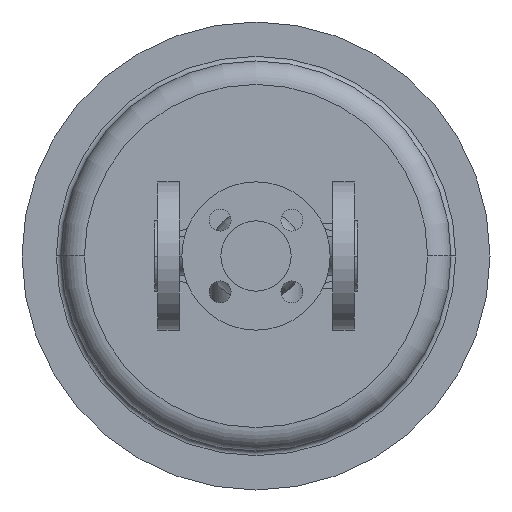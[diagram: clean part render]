
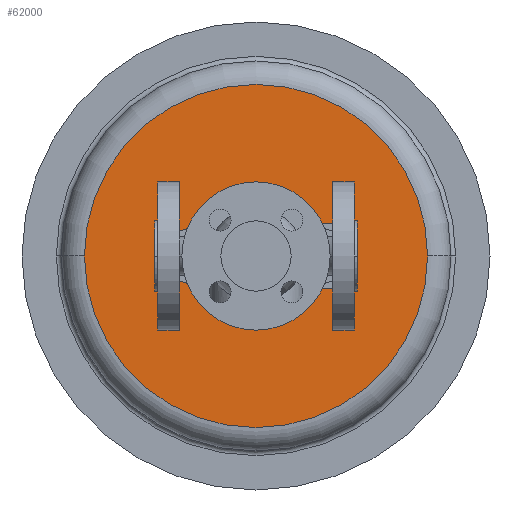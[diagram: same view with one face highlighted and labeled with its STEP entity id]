
A CAD part, front view. The second image highlights one B-rep face of the part: STEP entity #62000.
In plain terms, the highlighted planar face has unit normal (0, -1, 0).
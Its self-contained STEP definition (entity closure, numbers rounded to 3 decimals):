
#51820=CARTESIAN_POINT('',(175.,541.,0.));
#51830=VERTEX_POINT('',#51820);
#51930=CARTESIAN_POINT('',(-45.,541.,0.));
#51940=VERTEX_POINT('',#51930);
#51970=CARTESIAN_POINT('',(65.,541.,0.));
#51980=DIRECTION('',(0.,1.,0.));
#51990=DIRECTION('',(1.,0.,0.));
#52000=AXIS2_PLACEMENT_3D('',#51970,#51980,#51990);
#52010=CIRCLE('',#52000,110.);
#52020=CARTESIAN_POINT('',(65.,541.,-110.));
#52030=VERTEX_POINT('',#52020);
#52040=EDGE_CURVE('',#52030,#51940,#52010,.T.);
#52060=EDGE_CURVE('',#51830,#52030,#52010,.T.);
#52640=CARTESIAN_POINT('',(130.,541.,0.));
#52650=VERTEX_POINT('',#52640);
#52680=CARTESIAN_POINT('',(115.,541.,0.));
#52690=DIRECTION('',(0.,1.,0.));
#52700=DIRECTION('',(1.,0.,0.));
#52710=AXIS2_PLACEMENT_3D('',#52680,#52690,#52700);
#52720=CIRCLE('',#52710,15.);
#52730=CARTESIAN_POINT('',(100.,541.,0.));
#52740=VERTEX_POINT('',#52730);
#52750=EDGE_CURVE('',#52650,#52740,#52720,.T.);
#53060=CARTESIAN_POINT('',(30.,541.,0.));
#53070=VERTEX_POINT('',#53060);
#53230=CARTESIAN_POINT('',(0.,541.,0.));
#53240=VERTEX_POINT('',#53230);
#53270=CARTESIAN_POINT('',(15.,541.,0.));
#53280=DIRECTION('',(0.,1.,0.));
#53290=DIRECTION('',(1.,0.,0.));
#53300=AXIS2_PLACEMENT_3D('',#53270,#53280,#53290);
#53310=CIRCLE('',#53300,15.);
#53320=EDGE_CURVE('',#53240,#53070,#53310,.T.);
#53460=CARTESIAN_POINT('',(46.55,541.,0.));
#53470=VERTEX_POINT('',#53460);
#53520=CARTESIAN_POINT('',(65.,541.,0.));
#53530=DIRECTION('',(0.,1.,0.));
#53540=DIRECTION('',(1.,0.,0.));
#53550=AXIS2_PLACEMENT_3D('',#53520,#53530,#53540);
#53560=CIRCLE('',#53550,18.45);
#53570=CARTESIAN_POINT('',(83.45,541.,0.));
#53580=VERTEX_POINT('',#53570);
#53590=EDGE_CURVE('',#53470,#53580,#53560,.T.);
#61740=CARTESIAN_POINT('',(120.,541.,0.));
#61750=DIRECTION('',(0.,-1.,0.));
#61760=DIRECTION('',(-1.,0.,0.));
#61770=AXIS2_PLACEMENT_3D('',#61740,#61750,#61760);
#61780=PLANE('',#61770);
#61790=EDGE_CURVE('',#53580,#53470,#53560,.T.);
#61800=ORIENTED_EDGE('',*,*,#61790,.T.);
#61810=ORIENTED_EDGE('',*,*,#53590,.T.);
#61820=EDGE_LOOP('',(#61810,#61800));
#61830=FACE_BOUND('',#61820,.T.);
#61840=EDGE_CURVE('',#53070,#53240,#53310,.T.);
#61850=ORIENTED_EDGE('',*,*,#61840,.T.);
#61860=ORIENTED_EDGE('',*,*,#53320,.T.);
#61870=EDGE_LOOP('',(#61860,#61850));
#61880=FACE_BOUND('',#61870,.T.);
#61890=EDGE_CURVE('',#52740,#52650,#52720,.T.);
#61900=ORIENTED_EDGE('',*,*,#61890,.T.);
#61910=ORIENTED_EDGE('',*,*,#52750,.T.);
#61920=EDGE_LOOP('',(#61910,#61900));
#61930=FACE_BOUND('',#61920,.T.);
#61940=ORIENTED_EDGE('',*,*,#52040,.F.);
#61950=EDGE_CURVE('',#51940,#51830,#52010,.T.);
#61960=ORIENTED_EDGE('',*,*,#61950,.F.);
#61970=ORIENTED_EDGE('',*,*,#52060,.F.);
#61980=EDGE_LOOP('',(#61970,#61960,#61940));
#61990=FACE_OUTER_BOUND('',#61980,.T.);
#62000=ADVANCED_FACE('',(#61830,#61880,#61930,#61990),#61780,.T.);
